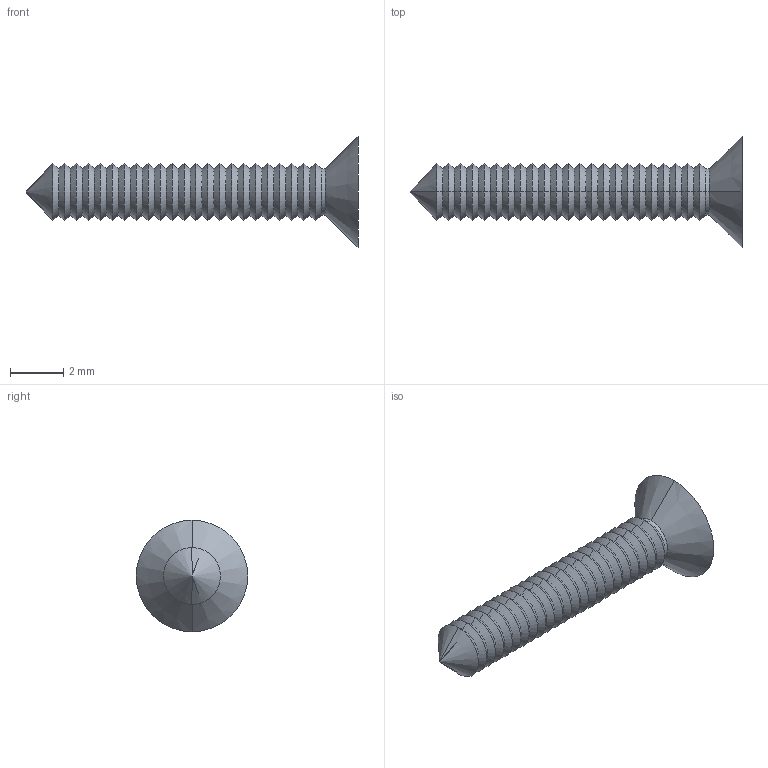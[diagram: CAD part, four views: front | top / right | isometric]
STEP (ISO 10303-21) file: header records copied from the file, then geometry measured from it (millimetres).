
FILE_DESCRIPTION (( 'STEP AP214' ), '1' );
FILE_NAME ('Cargol 2,2x9,3 PP48.STEP', '2019-10-10T17:16:54', ( 'aaa' ), ( '' ), 'SwSTEP 2.0', 'SolidWorks 2014', '' );
FILE_SCHEMA (( 'AUTOMOTIVE_DESIGN' ));
Length unit declared in the file: millimetre
Products named in the file (1): Cargol 2,2x9,3 PP48
Bounding box: 12.5 x 4.2 x 4.2 mm (x, y, z)
Volume: 39.8 mm3; surface area: 121.8 mm2
Topology: 1 solids, 1 shells, 110 faces, 230 edges, 121 vertices
Faces by surface type: cone 94, plane 14, cylinder 2
Entity records: 2858 total; most frequent: DIRECTION 546, CARTESIAN_POINT 460, ORIENTED_EDGE 456, EDGE_CURVE 228, AXIS2_PLACEMENT_3D 207, VECTOR 132, LINE 132, VERTEX_POINT 121
